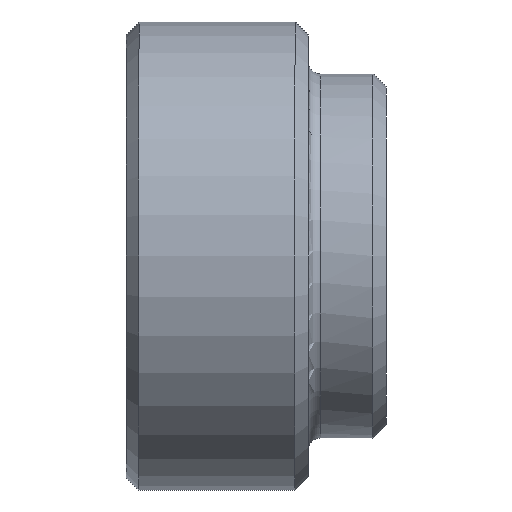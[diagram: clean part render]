
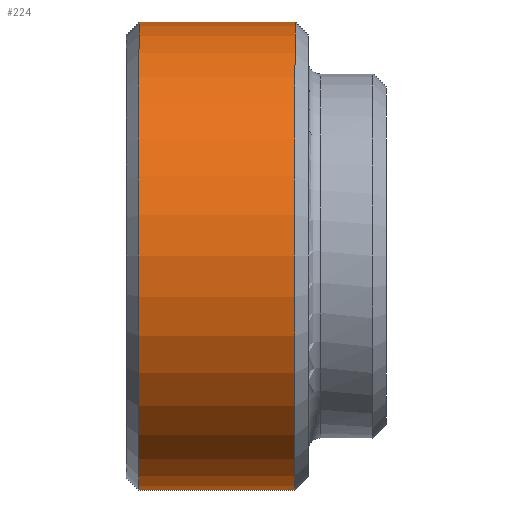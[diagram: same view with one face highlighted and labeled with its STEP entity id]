
A CAD part, front view. The second image highlights one B-rep face of the part: STEP entity #224.
In plain terms, the highlighted cylindrical face has radius 18 mm (diameter 36 mm), a full revolution.
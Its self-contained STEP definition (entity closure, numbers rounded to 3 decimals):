
#224=ADVANCED_FACE('',(#4753,#4755),#4757,.T.);
#4753=FACE_OUTER_BOUND('',#4754,.T.);
#4754=EDGE_LOOP('',(#5444));
#4755=FACE_OUTER_BOUND('',#4756,.T.);
#4756=EDGE_LOOP('',(#5445));
#4757=CYLINDRICAL_SURFACE('',#4758,18.);
#4758=AXIS2_PLACEMENT_3D('',#4759,#4760,#4761);
#4759=CARTESIAN_POINT('',(14.,0.,0.));
#4760=DIRECTION('',(-1.,0.,0.));
#4761=DIRECTION('',(0.,0.,-1.));
#5444=ORIENTED_EDGE('',*,*,#5535,.T.);
#5445=ORIENTED_EDGE('',*,*,#5537,.F.);
#5535=EDGE_CURVE('',#5646,#5646,#5647,.T.);
#5537=EDGE_CURVE('',#5650,#5650,#5651,.T.);
#5646=VERTEX_POINT('',#7967);
#5647=CIRCLE('',#7968,18.);
#5650=VERTEX_POINT('',#7977);
#5651=CIRCLE('',#7978,18.);
#7967=CARTESIAN_POINT('',(13.,0.,-18.));
#7968=AXIS2_PLACEMENT_3D('',#7969,#7970,#7971);
#7969=CARTESIAN_POINT('',(13.,0.,0.));
#7970=DIRECTION('',(-1.,0.,0.));
#7971=DIRECTION('',(0.,0.,-1.));
#7977=CARTESIAN_POINT('',(1.,0.,-18.));
#7978=AXIS2_PLACEMENT_3D('',#7979,#7980,#7981);
#7979=CARTESIAN_POINT('',(1.,0.,0.));
#7980=DIRECTION('',(-1.,0.,0.));
#7981=DIRECTION('',(0.,0.,-1.));
